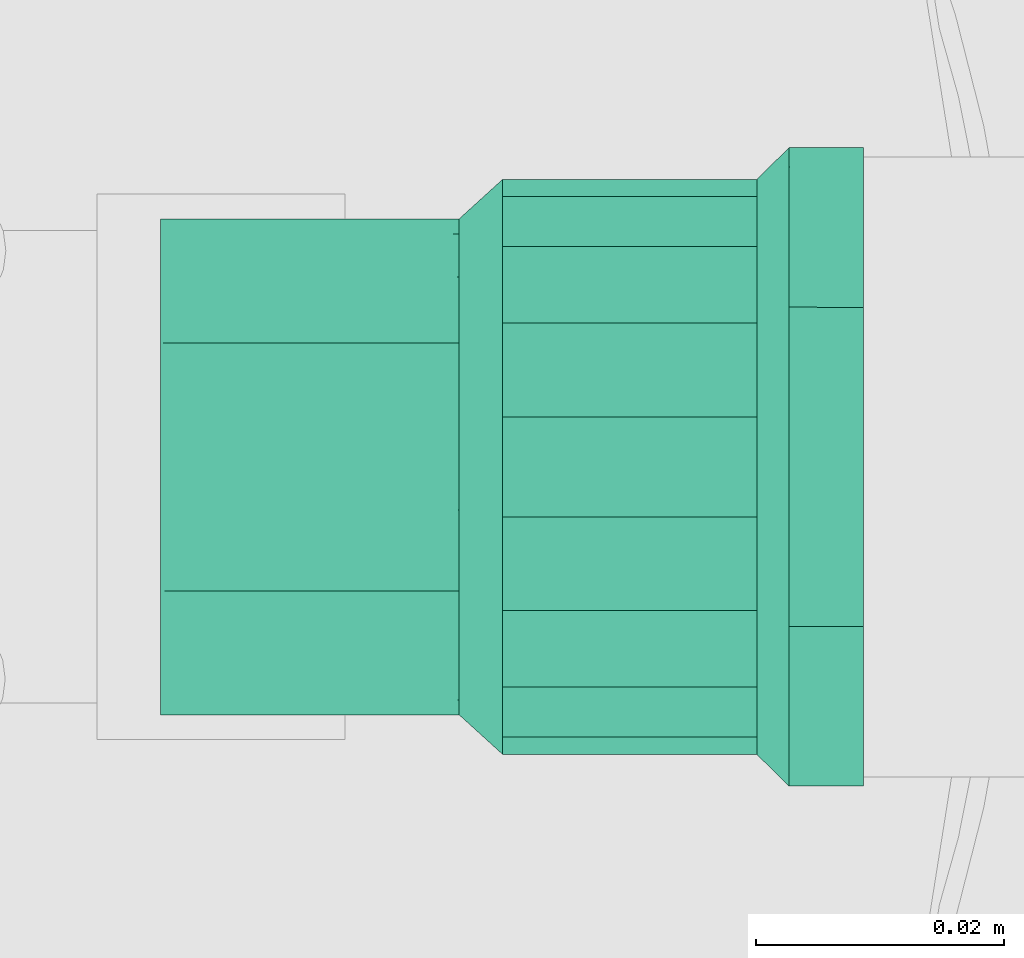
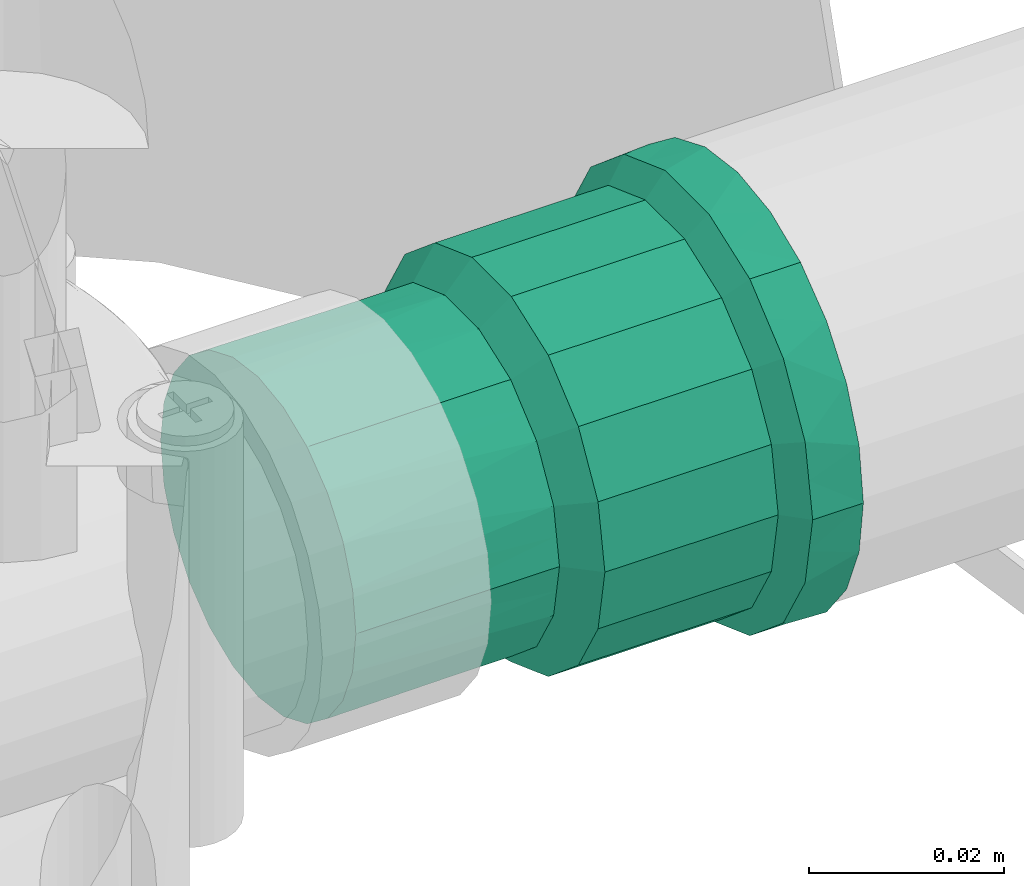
# One storey, part 148 of 166: 1 flow fitting.
"""IFC2X3 building model written with IfcOpenShell, lengths in metres."""

from ifc_helpers import new_model, entity, si_unit, converted_unit, direction, frame, origin, place, context, subcontext, project, spatial, faceted_brep, source, transform, mapped, material, type_object, type_shapes, element, save


model = new_model("IFC2X3")

# Units and contexts
model_context = context("Model", 3, precision=1e-05, world=origin(), true_north=direction((6.123233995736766e-17, 1.0)))
body_context = subcontext(model_context, "Body", "Model", "MODEL_VIEW")
ifc_project = project(units=[si_unit("LENGTHUNIT", "METRE"), converted_unit("PLANEANGLEUNIT", "DEGREE", entity("IfcPlaneAngleMeasure", 0.017453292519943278), si_unit("PLANEANGLEUNIT", "RADIAN"), dimensions=[0, 0, 0, 0, 0, 0, 0]), si_unit("AREAUNIT", "SQUARE_METRE")], contexts=[model_context])

# Site, building, storey
site_placement = place(None, origin())
site = spatial("IfcSite", under=ifc_project, at=site_placement, Name="Default", CompositionType="ELEMENT")
building_placement = place(site_placement, origin())
building = spatial("IfcBuilding", under=site, at=building_placement, Name="CASA DE ACOLHIDA PARA IDOSOS", CompositionType="ELEMENT")
storey_placement = place(building_placement, frame((0.0, 0.0, -1.7499999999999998)))
storey = spatial("IfcBuildingStorey", under=building, at=storey_placement, Name="IMPLANTAÇÃO DRENAGEM", CompositionType="ELEMENT", Elevation=-1.7499999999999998)

# Flow fitting
ifc_material = material(Name="PVC Marrom")
pipe_fitting_type = type_object("IfcPipeFittingType", Name="AF_Soldavel_Adaptador Curto com Bolsa e Rosca:Standard", PredefinedType="NOTDEFINED", material=ifc_material)
shared_shape = source(origin(), body_context, "Body", "Brep", [
    faceted_brep([(0.0, -0.012875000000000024, -0.02230015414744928), (0.0, -0.018207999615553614, -0.018207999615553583), (0.0, -0.0099999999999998, -0.017320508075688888), (0.0, -0.0051763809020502, -0.019318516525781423), (0.0, -0.006664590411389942, -0.0248725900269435), (0.0, -0.014142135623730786, -0.014142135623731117), (0.0, -0.022300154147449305, -0.01287499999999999), (0.0, -0.01732050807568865, -0.01000000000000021), (0.0, -0.0193185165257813, -0.005176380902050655), (0.0, -0.02487259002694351, -0.006664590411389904), (0.0, -0.02, 0.0), (0.0, -0.025750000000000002, 0.0), (0.0, -0.019318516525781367, 0.00517638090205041), (0.0, -0.024872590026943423, 0.006664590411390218), (0.0, -0.01732050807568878, 0.00999999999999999), (0.0, -0.02230015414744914, 0.012875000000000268), (0.0, -0.014142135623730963, 0.014142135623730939), (0.0, -0.018207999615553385, 0.018207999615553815), (0.0, -0.010000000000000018, 0.017320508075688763), (0.0, -0.012874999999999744, 0.022300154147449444), (0.0, -0.00517638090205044, 0.01931851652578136), (0.0, -0.006664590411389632, 0.024872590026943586), (0.0, 0.0, 0.02), (0.0, 0.0, 0.025750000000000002), (0.0, 0.005176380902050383, 0.019318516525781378), (0.0, 0.0066645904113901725, 0.024872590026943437), (0.0, 0.009999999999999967, 0.017320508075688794), (0.0, 0.012875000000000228, 0.022300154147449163), (0.0, 0.01414213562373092, 0.014142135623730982), (0.0, 0.01820799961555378, 0.01820799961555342), (0.0, 0.01732050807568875, 0.010000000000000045), (0.0, 0.02230015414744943, 0.012874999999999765), (0.0, 0.024872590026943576, 0.006664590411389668), (0.0, 0.01931851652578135, 0.005176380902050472), (0.0, 0.025750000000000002, 0.0), (0.0, 0.02, 0.0), (0.0, 0.02487259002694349, -0.006664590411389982), (0.0, 0.01931851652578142, -0.005176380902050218), (0.0, 0.02230015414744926, -0.012875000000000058), (0.0, 0.01732050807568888, -0.009999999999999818), (0.0, 0.01820799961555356, -0.018207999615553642), (0.0, 0.014142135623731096, -0.014142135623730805), (0.0, 0.012874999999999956, -0.022300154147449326), (0.0, 0.010000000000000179, -0.01732050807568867), (0.0, 0.006664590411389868, -0.024872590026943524), (0.0, 0.005176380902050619, -0.01931851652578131), (0.0, 0.0, -0.025750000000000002), (0.0, 0.0, -0.02), (0.005999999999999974, 0.024196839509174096, 0.008807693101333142), (0.005999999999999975, 0.024768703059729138, 0.005564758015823), (0.005999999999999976, 0.024973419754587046, 0.00440384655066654), (0.005999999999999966, 0.016298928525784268, 0.019427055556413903), (0.005999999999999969, 0.019724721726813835, 0.016552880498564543), (0.005999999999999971, 0.021960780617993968, 0.012680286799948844), (0.00599999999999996, 0.008670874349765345, 0.02383026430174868), (0.005999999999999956, 0.004468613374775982, 0.02535929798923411), (0.0059999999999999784, 0.025750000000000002, 0.0), (0.0059999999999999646, 0.01287313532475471, 0.02230123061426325), (0.00599999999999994, -0.012878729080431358, 0.022298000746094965), (0.005999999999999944, -0.008676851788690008, 0.023828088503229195), (0.005999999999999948, -0.004474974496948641, 0.02535817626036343), (0.005999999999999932, -0.019728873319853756, 0.016547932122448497), (0.005999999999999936, -0.016303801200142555, 0.019422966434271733), (0.0059999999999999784, -0.025750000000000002, 0.0), (0.005999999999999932, -0.024199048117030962, 0.008801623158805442), (0.005999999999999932, -0.021963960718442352, 0.012674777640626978), (0.0059999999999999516, -3.180561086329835e-06, 0.02535873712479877), (0.006000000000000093, -0.024199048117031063, -0.00880162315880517), (0.006000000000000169, -0.01630380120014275, -0.019422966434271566), (0.006000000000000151, -0.019728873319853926, -0.016547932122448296), (0.006000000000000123, -0.021963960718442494, -0.012674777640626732), (0.006000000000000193, -0.008676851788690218, -0.023828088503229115), (0.006000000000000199, -0.004474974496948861, -0.025358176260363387), (0.006000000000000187, -0.012878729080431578, -0.02229800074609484), (0.006000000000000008, 0.02497341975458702, -0.004403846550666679), (0.0060000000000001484, 0.012873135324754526, -0.022301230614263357), (0.006000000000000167, 0.008670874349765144, -0.023830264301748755), (0.006000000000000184, 0.004468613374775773, -0.02535929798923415), (0.006000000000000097, 0.01972472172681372, -0.016552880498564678), (0.006000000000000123, 0.016298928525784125, -0.019427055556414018), (0.006000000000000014, 0.024768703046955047, -0.005564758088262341), (0.006000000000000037, 0.024196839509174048, -0.008807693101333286), (0.006000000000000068, 0.021960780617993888, -0.012680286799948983), (0.006000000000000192, -3.1805610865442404e-06, -0.02535873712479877), (0.02909999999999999, 0.022482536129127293, 0.004068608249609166), (0.02910000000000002, 0.023200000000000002, 0.0), (0.00860000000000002, 0.023200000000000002, 0.0), (0.008600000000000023, 0.022500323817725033, 0.003967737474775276), (0.008600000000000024, 0.021800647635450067, 0.007935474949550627), (0.029099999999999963, 0.021800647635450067, 0.007935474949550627), (0.02909999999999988, 0.014684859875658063, 0.017503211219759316), (0.029099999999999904, 0.017771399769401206, 0.014913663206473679), (0.008600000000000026, 0.017771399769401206, 0.014913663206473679), (0.00860000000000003, 0.014684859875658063, 0.017503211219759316), (0.00860000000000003, 0.011598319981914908, 0.020092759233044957), (0.02909999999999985, 0.011598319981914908, 0.020092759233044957), (0.02909999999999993, 0.019786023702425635, 0.01142456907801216), (0.008600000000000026, 0.019786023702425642, 0.011424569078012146), (0.029099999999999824, 0.004026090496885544, 0.02284798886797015), (0.02909999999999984, 0.007812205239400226, 0.021470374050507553), (0.00860000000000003, 0.007812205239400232, 0.02147037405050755), (0.00860000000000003, 0.004026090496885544, 0.02284798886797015), (0.029099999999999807, -0.004031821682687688, 0.022846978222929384), (0.029099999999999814, -2.8655929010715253e-06, 0.022847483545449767), (0.00860000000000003, -2.8655929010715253e-06, 0.022847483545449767), (0.00860000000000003, -0.004031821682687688, 0.022846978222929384), (0.029099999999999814, -0.007817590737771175, 0.021468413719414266), (0.00860000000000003, -0.007817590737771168, 0.021468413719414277), (0.00860000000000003, -0.011603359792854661, 0.020089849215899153), (0.029099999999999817, -0.011603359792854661, 0.020089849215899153), (0.00860000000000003, -0.01468925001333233, 0.017499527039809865), (0.00860000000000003, -0.017775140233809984, 0.014909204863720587), (0.029099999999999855, -0.017775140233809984, 0.014909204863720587), (0.02909999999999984, -0.014689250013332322, 0.01749952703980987), (0.02909999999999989, -0.019788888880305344, 0.011419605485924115), (0.00860000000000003, -0.019788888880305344, 0.01141960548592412), (0.008600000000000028, -0.021802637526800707, 0.00793000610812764), (0.02909999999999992, -0.021802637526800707, 0.00793000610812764), (0.00860000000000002, -0.023200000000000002, 0.0), (0.02910000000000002, -0.023200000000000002, 0.0), (0.029100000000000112, -0.021802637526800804, -0.007930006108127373), (0.008600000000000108, -0.021802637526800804, -0.007930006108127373), (0.00860000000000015, 0.01468485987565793, -0.017503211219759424), (0.008600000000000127, 0.0177713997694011, -0.014913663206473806), (0.029100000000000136, 0.0177713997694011, -0.014913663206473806), (0.02910000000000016, 0.01468485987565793, -0.017503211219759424), (0.02910000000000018, 0.011598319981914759, -0.020092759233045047), (0.00860000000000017, 0.011598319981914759, -0.020092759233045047), (0.02910000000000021, -0.01160335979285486, -0.020089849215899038), (0.029100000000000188, -0.014689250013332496, -0.017499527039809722), (0.02910000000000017, -0.017775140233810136, -0.014909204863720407), (0.008600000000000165, -0.017775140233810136, -0.014909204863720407), (0.00860000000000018, -0.014689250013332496, -0.017499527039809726), (0.0086000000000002, -0.01160335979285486, -0.020089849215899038), (0.008600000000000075, 0.021800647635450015, -0.007935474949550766), (0.02910000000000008, 0.021800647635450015, -0.007935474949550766), (0.029100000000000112, 0.01978602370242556, -0.011424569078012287), (0.0086000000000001, 0.01978602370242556, -0.011424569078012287), (0.008600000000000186, 0.007812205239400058, -0.021470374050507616), (0.029100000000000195, 0.007812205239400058, -0.021470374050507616), (0.029100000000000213, 0.004026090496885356, -0.022847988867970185), (0.008600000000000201, 0.004026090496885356, -0.022847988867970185), (0.02910000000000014, -0.019788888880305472, -0.01141960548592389), (0.008600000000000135, -0.01978888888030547, -0.01141960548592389), (0.008600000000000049, 0.02250032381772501, -0.00396773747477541), (0.029100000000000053, 0.02248253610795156, -0.004068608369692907), (0.029100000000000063, 0.022258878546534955, -0.0053369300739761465), (0.029100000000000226, -0.0040318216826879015, -0.022846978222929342), (0.029100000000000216, -0.00781759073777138, -0.02146841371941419), (0.008600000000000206, -0.00781759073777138, -0.02146841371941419), (0.008600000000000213, -0.0040318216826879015, -0.022846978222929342), (0.02910000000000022, -2.8655929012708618e-06, -0.022847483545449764), (0.008600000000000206, -2.8655929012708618e-06, -0.022847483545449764), (0.056699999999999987, -0.010000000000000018, -0.017320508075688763), (0.056699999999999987, -0.00517638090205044, -0.01931851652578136), (0.056699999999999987, 0.0, -0.02), (0.056699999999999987, 0.005176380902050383, -0.019318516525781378), (0.056699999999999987, 0.009999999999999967, -0.017320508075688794), (0.056699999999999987, 0.01414213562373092, -0.014142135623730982), (0.056699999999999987, 0.01732050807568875, -0.010000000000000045), (0.056699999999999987, 0.01931851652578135, -0.005176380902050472), (0.056699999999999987, 0.02, 0.0), (0.056699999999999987, 0.01931851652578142, 0.005176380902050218), (0.056699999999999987, 0.01732050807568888, 0.009999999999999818), (0.056699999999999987, 0.014142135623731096, 0.014142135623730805), (0.056699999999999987, 0.010000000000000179, 0.01732050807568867), (0.056699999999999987, 0.005176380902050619, 0.01931851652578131), (0.056699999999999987, 0.0, 0.02), (0.056699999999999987, -0.0051763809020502, 0.019318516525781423), (0.056699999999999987, -0.0099999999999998, 0.017320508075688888), (0.056699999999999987, -0.014142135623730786, 0.014142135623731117), (0.056699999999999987, -0.01732050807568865, 0.01000000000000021), (0.056699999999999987, -0.0193185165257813, 0.005176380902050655), (0.056699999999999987, -0.02, 0.0), (0.056699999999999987, -0.019318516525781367, -0.00517638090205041), (0.056699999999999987, -0.01732050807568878, -0.009999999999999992), (0.056699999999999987, -0.014142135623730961, -0.01414213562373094), (0.03261999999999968, 0.0067346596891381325, 0.018508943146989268), (0.03261999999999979, 0.015320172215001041, 0.012856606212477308), (0.03261999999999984, 0.017056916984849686, 0.0098487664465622), (0.032619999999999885, 0.01879366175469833, 0.006840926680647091), (0.032619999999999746, 0.012659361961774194, 0.015088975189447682), (0.032619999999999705, 0.009998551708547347, 0.01732134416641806), (0.032619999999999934, 0.01939683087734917, 0.003420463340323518), (0.03261999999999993, 0.019188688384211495, 0.004600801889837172), (0.03261999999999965, 0.0034707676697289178, 0.019696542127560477), (0.032619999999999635, -2.470338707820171e-06, 0.019696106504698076), (0.03261999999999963, -0.0034757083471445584, 0.019695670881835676), (0.03261999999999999, 0.02, 0.0), (0.032619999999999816, -0.01879537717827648, 0.006836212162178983), (0.03261999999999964, -0.006739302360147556, 0.018507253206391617), (0.032619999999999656, -0.010002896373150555, 0.017318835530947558), (0.03261999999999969, -0.012663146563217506, 0.0150857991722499), (0.03261999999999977, -0.01705938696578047, 0.009844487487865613), (0.03261999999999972, -0.015323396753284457, 0.012852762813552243), (0.03261999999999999, -0.02, 0.0), (0.03262000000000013, -0.015323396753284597, -0.012852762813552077), (0.0326200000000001, -0.017059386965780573, -0.009844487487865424), (0.03262000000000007, -0.018795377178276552, -0.006836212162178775), (0.03262000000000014, -0.012663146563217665, -0.015085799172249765), (0.032620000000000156, -0.010002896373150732, -0.017318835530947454), (0.03262000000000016, -0.006739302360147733, -0.01850725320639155), (0.03262000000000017, -0.0034757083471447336, -0.019695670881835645), (0.03262000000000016, -2.4703387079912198e-06, -0.019696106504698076), (0.032620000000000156, 0.0034707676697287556, -0.019696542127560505), (0.03262000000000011, 0.012659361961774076, -0.015088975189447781), (0.032620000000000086, 0.015320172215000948, -0.01285660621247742), (0.03262000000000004, 0.018793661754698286, -0.006840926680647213), (0.03262000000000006, 0.01705691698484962, -0.009848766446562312), (0.03262000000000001, 0.01939683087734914, -0.0034204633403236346), (0.03262000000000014, 0.006734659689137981, -0.018508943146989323), (0.03262000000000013, 0.009998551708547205, -0.017321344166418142), (0.00860000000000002, 0.019318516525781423, -0.005176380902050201), (0.02910000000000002, 0.019318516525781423, -0.005176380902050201), (0.02910000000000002, 0.02, 0.0), (0.00860000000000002, 0.02, 0.0), (0.0059999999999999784, 0.02, 0.0), (0.0059999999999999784, 0.019318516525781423, -0.005176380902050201), (0.00860000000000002, 0.017320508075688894, -0.009999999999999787), (0.02910000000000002, 0.017320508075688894, -0.009999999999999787), (0.0059999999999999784, 0.017320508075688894, -0.009999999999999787), (0.02910000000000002, 0.010000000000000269, -0.017320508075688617), (0.02910000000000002, 0.014142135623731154, -0.014142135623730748), (0.00860000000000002, 0.014142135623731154, -0.014142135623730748), (0.0059999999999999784, 0.014142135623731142, -0.01414213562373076), (0.0059999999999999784, 0.010000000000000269, -0.017320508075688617), (0.00860000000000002, 0.010000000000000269, -0.017320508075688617), (0.02910000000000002, 0.005176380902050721, -0.019318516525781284), (0.0059999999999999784, 0.005176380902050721, -0.019318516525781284), (0.00860000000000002, 0.005176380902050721, -0.019318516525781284), (0.02910000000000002, 0.0, -0.02), (0.0059999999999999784, 0.0, -0.02), (0.00860000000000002, 0.0, -0.02), (0.00860000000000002, -0.005176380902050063, -0.01931851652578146), (0.02910000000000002, -0.005176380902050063, -0.01931851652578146), (0.0059999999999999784, -0.005176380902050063, -0.01931851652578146), (0.00860000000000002, -0.009999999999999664, -0.017320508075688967), (0.02910000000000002, -0.009999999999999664, -0.017320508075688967), (0.0059999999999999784, -0.009999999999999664, -0.017320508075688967), (0.02910000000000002, -0.017320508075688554, -0.010000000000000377), (0.02910000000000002, -0.014142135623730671, -0.01414213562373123), (0.00860000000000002, -0.014142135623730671, -0.01414213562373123), (0.0059999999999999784, -0.01414213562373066, -0.014142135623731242), (0.0059999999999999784, -0.017320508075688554, -0.010000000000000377), (0.00860000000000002, -0.017320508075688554, -0.010000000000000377), (0.02910000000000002, -0.019318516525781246, -0.00517638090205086), (0.0059999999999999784, -0.019318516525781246, -0.00517638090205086), (0.00860000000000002, -0.019318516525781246, -0.00517638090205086), (0.00860000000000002, -0.02, 0.0), (0.02910000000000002, -0.02, 0.0), (0.0059999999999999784, -0.02, 0.0), (0.00860000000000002, -0.01931851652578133, 0.005176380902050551), (0.02910000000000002, -0.01931851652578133, 0.005176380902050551), (0.0059999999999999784, -0.01931851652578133, 0.005176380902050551), (0.00860000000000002, -0.017320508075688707, 0.010000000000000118), (0.02910000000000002, -0.017320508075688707, 0.010000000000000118), (0.0059999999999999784, -0.017320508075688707, 0.010000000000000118), (0.02910000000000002, -0.009999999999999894, 0.017320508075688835), (0.02910000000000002, -0.014142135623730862, 0.014142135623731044), (0.00860000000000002, -0.014142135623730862, 0.014142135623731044), (0.0059999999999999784, -0.014142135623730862, 0.014142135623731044), (0.0059999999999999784, -0.009999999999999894, 0.017320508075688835), (0.00860000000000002, -0.009999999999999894, 0.017320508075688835), (0.02910000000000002, -0.005176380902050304, 0.019318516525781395), (0.0059999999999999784, -0.005176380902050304, 0.019318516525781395), (0.00860000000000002, -0.005176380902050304, 0.019318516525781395), (0.02910000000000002, 0.0, 0.02), (0.0059999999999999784, 0.0, 0.02), (0.00860000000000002, 0.0, 0.02), (0.0059999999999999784, 0.005176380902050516, 0.01931851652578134), (0.00860000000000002, 0.005176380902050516, 0.01931851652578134), (0.02910000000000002, 0.005176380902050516, 0.01931851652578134), (0.02910000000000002, 0.017320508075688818, 0.009999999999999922), (0.00860000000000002, 0.017320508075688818, 0.009999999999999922), (0.0059999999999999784, 0.017320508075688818, 0.009999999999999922), (0.0059999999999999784, 0.019318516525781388, 0.005176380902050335), (0.00860000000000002, 0.019318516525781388, 0.005176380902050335), (0.02910000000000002, 0.019318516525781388, 0.005176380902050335), (0.02910000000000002, 0.014142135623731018, 0.014142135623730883), (0.00860000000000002, 0.014142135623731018, 0.014142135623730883), (0.0059999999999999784, 0.014142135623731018, 0.014142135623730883), (0.0059999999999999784, 0.010000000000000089, 0.017320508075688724), (0.00860000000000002, 0.010000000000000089, 0.017320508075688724), (0.02910000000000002, 0.010000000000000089, 0.017320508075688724)], [[[0, 1, 2]], [[0, 2, 3]], [[3, 4, 0]], [[2, 1, 5]], [[6, 5, 1]], [[7, 5, 6]], [[8, 7, 6]], [[8, 6, 9]], [[8, 9, 10]], [[10, 9, 11]], [[12, 10, 11]], [[12, 11, 13]], [[14, 12, 13]], [[14, 13, 15]], [[16, 14, 15]], [[15, 17, 16]], [[17, 18, 16]], [[18, 17, 19]], [[18, 19, 20]], [[21, 20, 19]], [[20, 21, 22]], [[22, 21, 23]], [[23, 24, 22]], [[24, 23, 25]], [[24, 25, 26]], [[27, 26, 25]], [[27, 28, 26]], [[27, 29, 28]], [[30, 28, 29]], [[31, 30, 29]], [[32, 30, 31]], [[33, 30, 32]], [[33, 32, 34]], [[34, 35, 33]], [[36, 35, 34]], [[36, 37, 35]], [[37, 36, 38]], [[39, 37, 38]], [[39, 38, 40]], [[39, 40, 41]], [[40, 42, 41]], [[41, 42, 43]], [[43, 42, 44]], [[44, 45, 43]], [[46, 45, 44]], [[4, 47, 46]], [[46, 47, 45]], [[4, 3, 47]], [[32, 48, 49, 50]], [[51, 52, 29]], [[53, 48, 31, 52]], [[54, 25, 55]], [[48, 32, 31]], [[34, 50, 56]], [[27, 57, 51]], [[29, 27, 51]], [[29, 52, 31]], [[19, 58, 59]], [[21, 19, 59]], [[54, 57, 27]], [[25, 54, 27]], [[55, 25, 23]], [[32, 50, 34]], [[59, 60, 21]], [[61, 62, 17]], [[63, 64, 13]], [[65, 61, 15, 64]], [[11, 63, 13]], [[17, 62, 19]], [[66, 55, 23, 60]], [[21, 60, 23]], [[61, 17, 15]], [[19, 62, 58]], [[13, 64, 15]], [[67, 63, 9]], [[68, 69, 1]], [[70, 67, 6, 69]], [[71, 4, 72]], [[67, 9, 6]], [[63, 11, 9]], [[4, 71, 0]], [[0, 73, 68]], [[1, 69, 6]], [[36, 34, 74]], [[42, 75, 76]], [[71, 73, 0]], [[44, 42, 76]], [[72, 4, 46]], [[1, 0, 68]], [[76, 77, 44]], [[78, 79, 40]], [[36, 74, 80, 81]], [[82, 78, 38, 81]], [[36, 81, 38]], [[40, 79, 42]], [[83, 72, 46, 77]], [[44, 77, 46]], [[78, 40, 38]], [[42, 79, 75]], [[34, 56, 74]], [[84, 85, 86, 87, 88, 89]], [[90, 91, 92, 93, 94, 95]], [[91, 96, 89, 88, 97, 92]], [[98, 99, 95, 94, 100, 101]], [[102, 103, 98, 101, 104, 105]], [[106, 102, 105, 107, 108, 109]], [[110, 111, 112, 113, 109, 108]], [[114, 112, 111, 115, 116, 117]], [[116, 118, 119, 117]], [[120, 119, 118, 121]], [[122, 123, 124, 125, 126, 127]], [[128, 129, 130, 131, 132, 133]], [[134, 135, 136, 124, 123, 137]], [[138, 127, 126, 139, 140, 141]], [[130, 142, 120, 121, 143, 131]], [[144, 86, 85, 145, 146, 135, 134]], [[147, 148, 128, 133, 149, 150]], [[140, 151, 147, 150, 152, 141]], [[153, 154, 155, 156, 157, 158, 159, 160, 161, 162, 163, 164, 165, 166, 167, 168, 169, 170, 171, 172, 173, 174, 175, 176]], [[166, 165, 177]], [[178, 164, 163]], [[179, 178, 163, 180]], [[165, 181, 182]], [[162, 183, 184, 180]], [[177, 185, 166]], [[181, 164, 178]], [[186, 187, 167, 185]], [[164, 181, 165]], [[162, 161, 183]], [[161, 188, 183]], [[162, 180, 163]], [[167, 187, 168]], [[189, 172, 171]], [[168, 190, 169]], [[169, 191, 192]], [[193, 189, 171, 194]], [[173, 172, 195]], [[168, 187, 190]], [[190, 191, 169]], [[170, 194, 171]], [[165, 182, 177]], [[192, 194, 170]], [[170, 169, 192]], [[189, 195, 172]], [[166, 185, 167]], [[174, 173, 195]], [[196, 176, 175]], [[197, 196, 175, 198]], [[153, 199, 200]], [[174, 195, 198]], [[201, 202, 154]], [[199, 176, 196]], [[203, 204, 155, 202]], [[154, 202, 155]], [[176, 199, 153]], [[158, 157, 205]], [[154, 153, 201]], [[153, 200, 201]], [[158, 206, 159]], [[174, 198, 175]], [[207, 160, 159]], [[208, 207, 159, 206]], [[160, 209, 161]], [[209, 188, 161]], [[204, 210, 156]], [[156, 155, 204]], [[157, 210, 211]], [[156, 210, 157]], [[205, 206, 158]], [[160, 207, 209]], [[157, 211, 205]], [[212, 213, 214, 215, 216, 35, 37, 217]], [[218, 219, 213, 212, 217, 37, 39, 220]], [[221, 222, 223, 224, 41, 43, 225, 226]], [[218, 220, 39, 41, 224, 223, 222, 219]], [[227, 221, 226, 225, 43, 45, 228, 229]], [[230, 227, 229, 228, 45, 47, 231, 232]], [[233, 234, 230, 232, 231, 47, 3, 235]], [[236, 237, 234, 233, 235, 3, 2, 238]], [[239, 240, 241, 242, 5, 7, 243, 244]], [[236, 238, 2, 5, 242, 241, 240, 237]], [[245, 239, 244, 243, 7, 8, 246, 247]], [[248, 249, 245, 247, 246, 8, 10, 250]], [[251, 252, 249, 248, 250, 10, 12, 253]], [[254, 255, 252, 251, 253, 12, 14, 256]], [[257, 258, 259, 260, 16, 18, 261, 262]], [[254, 256, 14, 16, 260, 259, 258, 255]], [[263, 257, 262, 261, 18, 20, 264, 265]], [[266, 263, 265, 264, 20, 22, 267, 268]], [[268, 267, 22, 24, 269, 270, 271, 266]], [[272, 273, 274, 30, 33, 275, 276, 277]], [[273, 272, 278, 279, 280, 28, 30, 274]], [[277, 276, 275, 33, 35, 216, 215, 214]], [[271, 270, 269, 24, 26, 281, 282, 283]], [[283, 282, 281, 26, 28, 280, 279, 278]], [[63, 67, 121, 118]], [[68, 73, 133, 132, 131, 69]], [[149, 133, 73, 71, 72, 150]], [[70, 69, 131, 143, 121, 67]], [[76, 75, 127, 138, 141, 77]], [[82, 81, 134, 137, 123, 78]], [[144, 134, 81, 80, 74, 56, 86]], [[141, 152, 150, 72, 83, 77]], [[123, 122, 127, 75, 79, 78]], [[87, 86, 56, 50, 49, 48, 88]], [[97, 88, 48, 53, 52, 92]], [[93, 92, 52, 51, 57, 94]], [[57, 54, 55, 101, 100, 94]], [[66, 60, 105, 104, 101, 55]], [[58, 108, 107, 105, 60, 59]], [[63, 118, 116, 64]], [[61, 65, 64, 116, 115, 111]], [[58, 62, 61, 111, 110, 108]], [[227, 230, 234, 237, 240, 239, 245, 249, 252, 255, 258, 257, 263, 266, 271, 283, 278, 272, 277, 214, 213, 219, 222, 221]], [[180, 184, 183, 188, 85, 84, 89]], [[99, 98, 185, 177, 182, 95]], [[182, 181, 178, 91, 90, 95]], [[178, 179, 180, 89, 96, 91]], [[103, 102, 187, 186, 185, 98]], [[114, 117, 189, 193, 194, 112]], [[106, 109, 191, 190, 187, 102]], [[117, 119, 195, 189]], [[194, 192, 191, 109, 113, 112]], [[119, 120, 198, 195]], [[201, 200, 128, 148, 147, 202]], [[129, 128, 200, 199, 196, 130]], [[196, 197, 198, 120, 142, 130]], [[139, 126, 211, 210, 204, 140]], [[136, 135, 207, 208, 206, 124]], [[209, 207, 135, 146, 145, 85, 188]], [[204, 203, 202, 147, 151, 140]], [[206, 205, 211, 126, 125, 124]]]),
])
type_shapes(pipe_fitting_type, [shared_shape])
flow_fitting_placement = place(storey_placement, frame((-49.02258607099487, 22.85494207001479, -0.2), z_axis=(0.0, 0.0, 1.0), x_axis=(-1.0, 0.0, 0.0)))
element("IfcFlowFitting", 1, at=flow_fitting_placement, inside=storey, type_object=pipe_fitting_type, material=ifc_material, Name="AF_Soldavel_Adaptador Curto com Bolsa e Rosca:Standard", ObjectType="AF_Soldavel_Adaptador Curto com Bolsa e Rosca:Standard", context=body_context, shape_type="MappedRepresentation", body=[
    mapped(shared_shape, transform((0.0, 0.0, 0.0), scale=1.0)),
])

save(model, "model.ifc")
